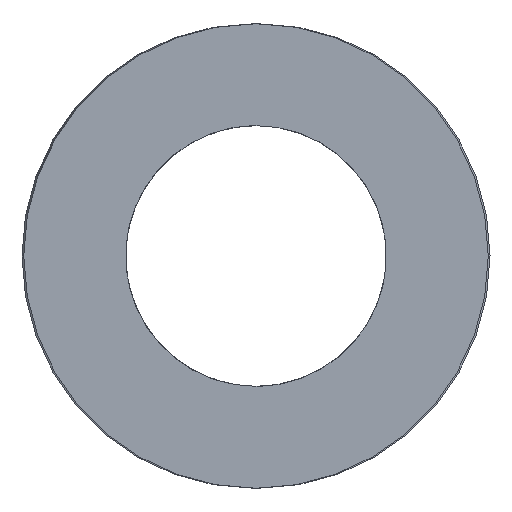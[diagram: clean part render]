
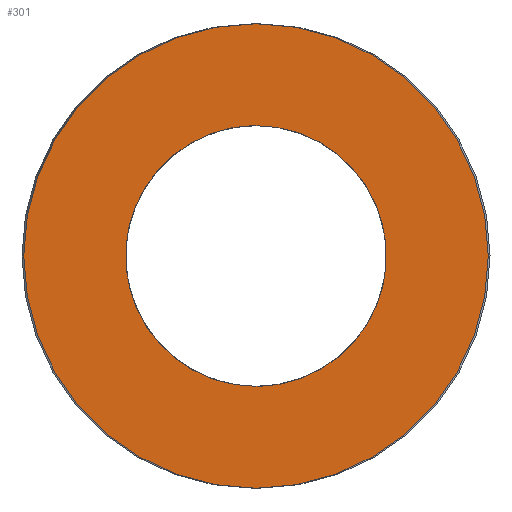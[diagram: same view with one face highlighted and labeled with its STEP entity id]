
A CAD part, left-side view. The second image highlights one B-rep face of the part: STEP entity #301.
In plain terms, the highlighted planar face has unit normal (-1, 0, 0).
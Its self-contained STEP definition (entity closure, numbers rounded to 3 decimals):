
#63=CARTESIAN_POINT('Vertex',(0.,15.5,0.)) ;
#77=CARTESIAN_POINT('Vertex',(0.,-15.5,0.)) ;
#80=CARTESIAN_POINT('Axis2P3D Location',(0.,0.,0.)) ;
#97=CARTESIAN_POINT('Axis2P3D Location',(0.,0.,0.)) ;
#232=CARTESIAN_POINT('Axis2P3D Location',(0.,7.75,0.)) ;
#242=CARTESIAN_POINT('Control Point',(0.,0.,-8.7)) ;
#243=CARTESIAN_POINT('Control Point',(0.,0.867,-8.7)) ;
#244=CARTESIAN_POINT('Control Point',(0.,1.734,-8.592)) ;
#245=CARTESIAN_POINT('Control Point',(0.,2.583,-8.376)) ;
#246=CARTESIAN_POINT('Control Point',(0.,4.209,-7.737)) ;
#247=CARTESIAN_POINT('Control Point',(0.,5.629,-6.719)) ;
#248=CARTESIAN_POINT('Control Point',(0.,6.272,-6.123)) ;
#249=CARTESIAN_POINT('Control Point',(0.,7.395,-4.785)) ;
#250=CARTESIAN_POINT('Control Point',(0.,8.156,-3.211)) ;
#251=CARTESIAN_POINT('Control Point',(0.,8.436,-2.381)) ;
#252=CARTESIAN_POINT('Control Point',(0.,8.783,-0.669)) ;
#253=CARTESIAN_POINT('Control Point',(0.,8.699,1.077)) ;
#254=CARTESIAN_POINT('Control Point',(0.,8.548,1.94)) ;
#255=CARTESIAN_POINT('Control Point',(0.,8.034,3.61)) ;
#256=CARTESIAN_POINT('Control Point',(0.,7.127,5.103)) ;
#257=CARTESIAN_POINT('Control Point',(0.,6.581,5.789)) ;
#258=CARTESIAN_POINT('Control Point',(0.,5.332,7.011)) ;
#259=CARTESIAN_POINT('Control Point',(0.,3.821,7.888)) ;
#260=CARTESIAN_POINT('Control Point',(0.,3.015,8.231)) ;
#261=CARTESIAN_POINT('Control Point',(0.,1.918,8.541)) ;
#262=CARTESIAN_POINT('Control Point',(0.,0.793,8.67)) ;
#263=CARTESIAN_POINT('Control Point',(0.,0.529,8.69)) ;
#264=CARTESIAN_POINT('Control Point',(0.,0.264,8.7)) ;
#265=CARTESIAN_POINT('Control Point',(0.,0.,8.7)) ;
#266=CARTESIAN_POINT('Vertex',(0.,0.,-8.7)) ;
#268=CARTESIAN_POINT('Vertex',(0.,0.,8.7)) ;
#272=CARTESIAN_POINT('Control Point',(0.,0.,8.7)) ;
#273=CARTESIAN_POINT('Control Point',(0.,-0.867,8.7)) ;
#274=CARTESIAN_POINT('Control Point',(0.,-1.734,8.592)) ;
#275=CARTESIAN_POINT('Control Point',(0.,-2.583,8.376)) ;
#276=CARTESIAN_POINT('Control Point',(0.,-4.209,7.737)) ;
#277=CARTESIAN_POINT('Control Point',(0.,-5.629,6.719)) ;
#278=CARTESIAN_POINT('Control Point',(0.,-6.272,6.123)) ;
#279=CARTESIAN_POINT('Control Point',(0.,-7.395,4.785)) ;
#280=CARTESIAN_POINT('Control Point',(0.,-8.156,3.211)) ;
#281=CARTESIAN_POINT('Control Point',(0.,-8.436,2.381)) ;
#282=CARTESIAN_POINT('Control Point',(0.,-8.783,0.669)) ;
#283=CARTESIAN_POINT('Control Point',(0.,-8.699,-1.077)) ;
#284=CARTESIAN_POINT('Control Point',(0.,-8.548,-1.94)) ;
#285=CARTESIAN_POINT('Control Point',(0.,-8.034,-3.61)) ;
#286=CARTESIAN_POINT('Control Point',(0.,-7.127,-5.103)) ;
#287=CARTESIAN_POINT('Control Point',(0.,-6.581,-5.789)) ;
#288=CARTESIAN_POINT('Control Point',(0.,-5.332,-7.011)) ;
#289=CARTESIAN_POINT('Control Point',(0.,-3.821,-7.888)) ;
#290=CARTESIAN_POINT('Control Point',(0.,-3.015,-8.231)) ;
#291=CARTESIAN_POINT('Control Point',(0.,-1.918,-8.541)) ;
#292=CARTESIAN_POINT('Control Point',(0.,-0.793,-8.67)) ;
#293=CARTESIAN_POINT('Control Point',(0.,-0.529,-8.69)) ;
#294=CARTESIAN_POINT('Control Point',(0.,-0.264,-8.7)) ;
#295=CARTESIAN_POINT('Control Point',(0.,0.,-8.7)) ;
#81=DIRECTION('Axis2P3D Direction',(1.,-0.,0.)) ;
#98=DIRECTION('Axis2P3D Direction',(1.,-0.,0.)) ;
#233=DIRECTION('Axis2P3D Direction',(-1.,0.,0.)) ;
#234=DIRECTION('Axis2P3D XDirection',(0.,1.,0.)) ;
#82=AXIS2_PLACEMENT_3D('Circle Axis2P3D',#80,#81,$) ;
#99=AXIS2_PLACEMENT_3D('Circle Axis2P3D',#97,#98,$) ;
#235=AXIS2_PLACEMENT_3D('Plane Axis2P3D',#232,#233,#234) ;
#238=ORIENTED_EDGE('',*,*,#84,.T.) ;
#239=ORIENTED_EDGE('',*,*,#101,.T.) ;
#298=ORIENTED_EDGE('',*,*,#270,.T.) ;
#299=ORIENTED_EDGE('',*,*,#296,.T.) ;
#300=FACE_BOUND('',#297,.T.) ;
#301=ADVANCED_FACE('392-B32-305',(#240,#300),#236,.T.) ;
#241=B_SPLINE_CURVE_WITH_KNOTS('',5,(#242,#243,#244,#245,#246,#247,#248,#249,#250,#251,#252,#253,#254,#255,#256,#257,#258,#259,#260,#261,#262,#263,#264,#265),.UNSPECIFIED.,.F.,.U.,(6,3,3,3,3,3,3,6),(0.,6.131,12.261,18.392,24.522,30.653,36.783,38.652),.UNSPECIFIED.) ;
#271=B_SPLINE_CURVE_WITH_KNOTS('',5,(#272,#273,#274,#275,#276,#277,#278,#279,#280,#281,#282,#283,#284,#285,#286,#287,#288,#289,#290,#291,#292,#293,#294,#295),.UNSPECIFIED.,.F.,.U.,(6,3,3,3,3,3,3,6),(0.,6.131,12.261,18.392,24.522,30.653,36.783,38.652),.UNSPECIFIED.) ;
#83=CIRCLE('generated circle',#82,15.5) ;
#100=CIRCLE('generated circle',#99,15.5) ;
#84=EDGE_CURVE('',#64,#78,#83,.F.) ;
#101=EDGE_CURVE('',#78,#64,#100,.F.) ;
#270=EDGE_CURVE('',#267,#269,#241,.T.) ;
#296=EDGE_CURVE('',#269,#267,#271,.T.) ;
#237=EDGE_LOOP('',(#238,#239)) ;
#297=EDGE_LOOP('',(#298,#299)) ;
#240=FACE_OUTER_BOUND('',#237,.T.) ;
#236=PLANE('Plane',#235) ;
#64=VERTEX_POINT('',#63) ;
#78=VERTEX_POINT('',#77) ;
#267=VERTEX_POINT('',#266) ;
#269=VERTEX_POINT('',#268) ;
